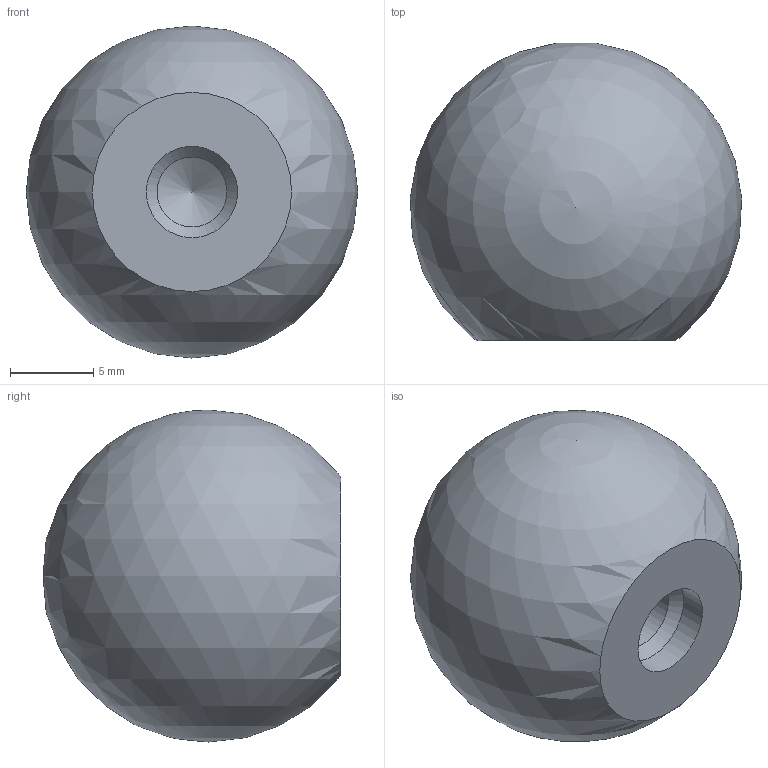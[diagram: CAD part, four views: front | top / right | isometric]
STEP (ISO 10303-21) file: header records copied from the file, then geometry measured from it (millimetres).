
FILE_DESCRIPTION (( 'STEP AP214' ), '1' );
FILE_NAME ('319-KU-20-M5-C.step', '2019-04-24T08:50:12', ( 'user' ), ( '' ), 'SwSTEP 2.0', 'SolidWorks 2019', '' );
FILE_SCHEMA (( 'AUTOMOTIVE_DESIGN' ));
Length unit declared in the file: millimetre
Products named in the file (1): 319-KU-20-M5-C
Bounding box: 19.97 x 17.93 x 20 mm (x, y, z)
Volume: 3908.2 mm3; surface area: 1380.4 mm2
Topology: 1 solids, 1 shells, 6 faces, 15 edges, 10 vertices
Faces by surface type: cone 2, cylinder 2, plane 1, sphere 1
Full cylindrical faces by diameter (mm): 4.2 x1, 5.5 x1
Entity records: 159 total; most frequent: DIRECTION 24, CARTESIAN_POINT 17, AXIS2_PLACEMENT_3D 12, ORIENTED_EDGE 10, EDGE_LOOP 10, FACE_OUTER_BOUND 8, ADVANCED_FACE 6, VERTEX_POINT 5
